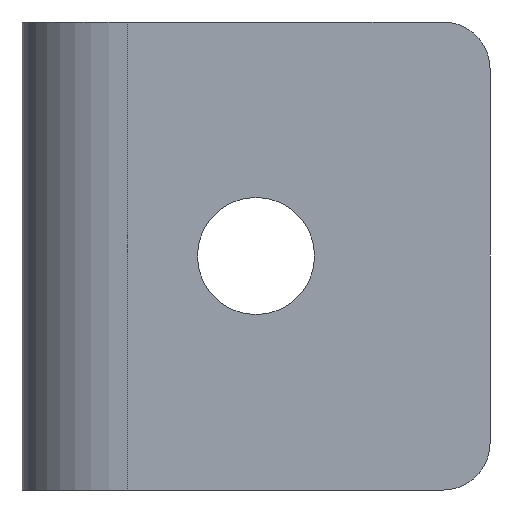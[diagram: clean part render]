
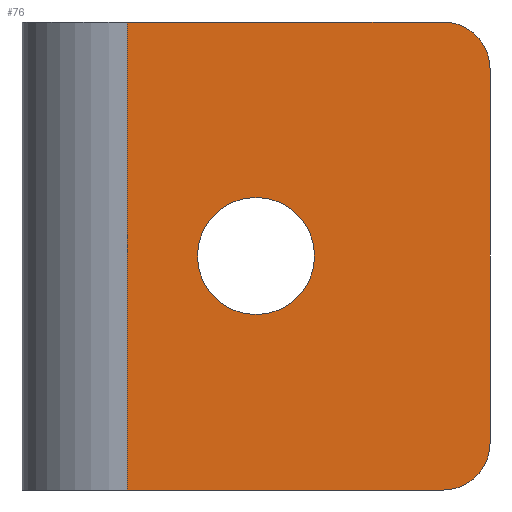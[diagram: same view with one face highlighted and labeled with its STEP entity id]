
A CAD part, front view. The second image highlights one B-rep face of the part: STEP entity #76.
In plain terms, the highlighted planar face has unit normal (0, -1, 0).
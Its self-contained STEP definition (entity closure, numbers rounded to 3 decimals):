
#76 = ADVANCED_FACE( '', ( #94, #95 ), #96, .F. );
#94 = FACE_BOUND( '', #132, .T. );
#95 = FACE_OUTER_BOUND( '', #133, .T. );
#96 = PLANE( '', #134 );
#132 = EDGE_LOOP( '', ( #175 ) );
#133 = EDGE_LOOP( '', ( #176, #177, #178, #179, #180, #181 ) );
#134 = AXIS2_PLACEMENT_3D( '', #182, #183, #184 );
#175 = ORIENTED_EDGE( '', *, *, #300, .F. );
#176 = ORIENTED_EDGE( '', *, *, #301, .T. );
#177 = ORIENTED_EDGE( '', *, *, #302, .F. );
#178 = ORIENTED_EDGE( '', *, *, #303, .F. );
#179 = ORIENTED_EDGE( '', *, *, #304, .F. );
#180 = ORIENTED_EDGE( '', *, *, #305, .F. );
#181 = ORIENTED_EDGE( '', *, *, #297, .T. );
#182 = CARTESIAN_POINT( '', ( 4.5, 0., 10. ) );
#183 = DIRECTION( '', ( 0., 1., 0. ) );
#184 = DIRECTION( '', ( 0., 0., 1. ) );
#297 = EDGE_CURVE( '', #339, #337, #340, .T. );
#300 = EDGE_CURVE( '', #344, #344, #345, .T. );
#301 = EDGE_CURVE( '', #337, #346, #347, .T. );
#302 = EDGE_CURVE( '', #348, #346, #349, .T. );
#303 = EDGE_CURVE( '', #350, #348, #351, .T. );
#304 = EDGE_CURVE( '', #352, #350, #353, .T. );
#305 = EDGE_CURVE( '', #339, #352, #354, .T. );
#337 = VERTEX_POINT( '', #405 );
#339 = VERTEX_POINT( '', #407 );
#340 = LINE( '', #408, #409 );
#344 = VERTEX_POINT( '', #414 );
#345 = CIRCLE( '', #415, 2.5 );
#346 = VERTEX_POINT( '', #416 );
#347 = LINE( '', #417, #418 );
#348 = VERTEX_POINT( '', #419 );
#349 = CIRCLE( '', #420, 2. );
#350 = VERTEX_POINT( '', #421 );
#351 = LINE( '', #422, #423 );
#352 = VERTEX_POINT( '', #424 );
#353 = CIRCLE( '', #425, 2. );
#354 = LINE( '', #426, #427 );
#405 = CARTESIAN_POINT( '', ( 4.5, 0., -10. ) );
#407 = CARTESIAN_POINT( '', ( 4.5, 0., 10. ) );
#408 = CARTESIAN_POINT( '', ( 4.5, 0., 10. ) );
#409 = VECTOR( '', #499, 1000. );
#414 = CARTESIAN_POINT( '', ( 10., 0., -2.5 ) );
#415 = AXIS2_PLACEMENT_3D( '', #504, #505, #506 );
#416 = CARTESIAN_POINT( '', ( 18., 0., -10. ) );
#417 = CARTESIAN_POINT( '', ( 4.5, 0., -10. ) );
#418 = VECTOR( '', #507, 1000. );
#419 = CARTESIAN_POINT( '', ( 20., 0., -8. ) );
#420 = AXIS2_PLACEMENT_3D( '', #508, #509, #510 );
#421 = CARTESIAN_POINT( '', ( 20., 0., 8. ) );
#422 = CARTESIAN_POINT( '', ( 20., 0., 10. ) );
#423 = VECTOR( '', #511, 1000. );
#424 = CARTESIAN_POINT( '', ( 18., 0., 10. ) );
#425 = AXIS2_PLACEMENT_3D( '', #512, #513, #514 );
#426 = CARTESIAN_POINT( '', ( 4.5, 0., 10. ) );
#427 = VECTOR( '', #515, 1000. );
#499 = DIRECTION( '', ( 0., 0., -1. ) );
#504 = CARTESIAN_POINT( '', ( 10., 0., 0. ) );
#505 = DIRECTION( '', ( 0., -1., 0. ) );
#506 = DIRECTION( '', ( 0., 0., -1. ) );
#507 = DIRECTION( '', ( 1., 0., 0. ) );
#508 = CARTESIAN_POINT( '', ( 18., 0., -8. ) );
#509 = DIRECTION( '', ( 0., 1., 0. ) );
#510 = DIRECTION( '', ( 1., 0., 0. ) );
#511 = DIRECTION( '', ( 0., 0., -1. ) );
#512 = CARTESIAN_POINT( '', ( 18., 0., 8. ) );
#513 = DIRECTION( '', ( 0., 1., 0. ) );
#514 = DIRECTION( '', ( 1., 0., 0. ) );
#515 = DIRECTION( '', ( 1., 0., 0. ) );
